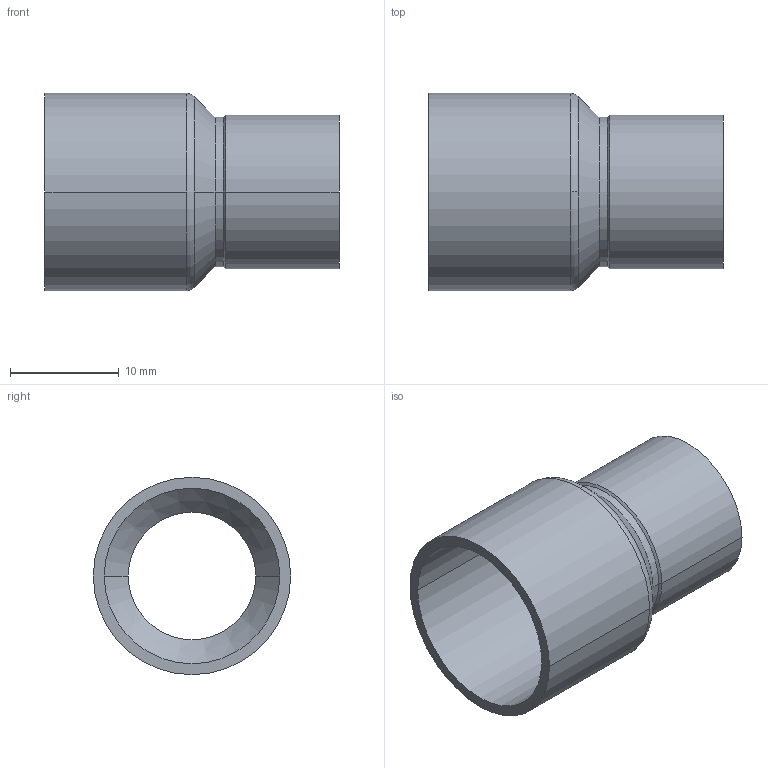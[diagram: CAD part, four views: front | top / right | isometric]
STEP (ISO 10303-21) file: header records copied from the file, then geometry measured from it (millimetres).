
FILE_DESCRIPTION((''),'2;1');
FILE_NAME('G:\Technics\CAD\Bauteile\Serie 15240\152401612.stp','2005-10-21T12:51:03',('boden'),(''),'Autodesk Inventor 8','Autodesk Inventor 8','');
FILE_SCHEMA(('AUTOMOTIVE_DESIGN { 1 0 10303 214 1 1 1 1 }'));
Length unit declared in the file: millimetre
Products named in the file (1): 152401612
Bounding box: 27 x 18.11 x 18.11 mm (x, y, z)
Volume: 1333.6 mm3; surface area: 2762.1 mm2
Topology: 1 solids, 1 shells, 24 faces, 52 edges, 30 vertices
Faces by surface type: cylinder 12, cone 8, torus 2, plane 2
Entity records: 683 total; most frequent: DIRECTION 134, CARTESIAN_POINT 107, ORIENTED_EDGE 104, AXIS2_PLACEMENT_3D 57, EDGE_CURVE 52, CIRCLE 32, VERTEX_POINT 30, EDGE_LOOP 26
